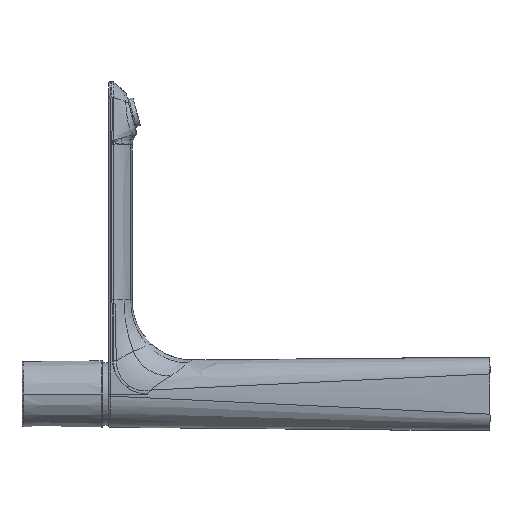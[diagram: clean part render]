
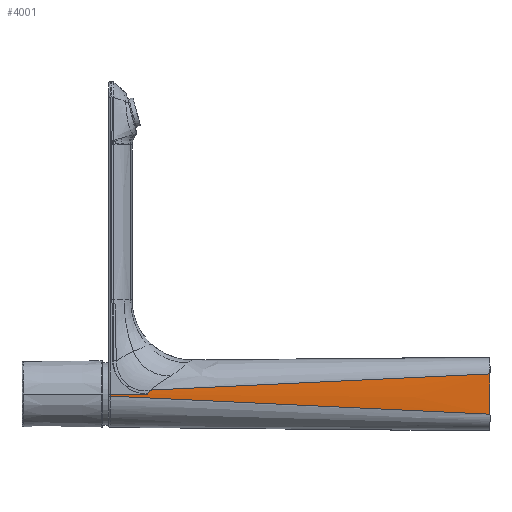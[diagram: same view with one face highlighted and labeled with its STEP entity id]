
A CAD part, left-side view. The second image highlights one B-rep face of the part: STEP entity #4001.
In plain terms, the highlighted free-form (B-spline) face has degree [5, 5] with [6, 8] control points.
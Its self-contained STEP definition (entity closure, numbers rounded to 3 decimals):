
#22=CARTESIAN_POINT('',(-23.102,0.,12.806));
#108=CARTESIAN_POINT('',(-23.102,0.,-12.806));
#126=CARTESIAN_POINT('',(-23.102,0.,12.806));
#127=CARTESIAN_POINT('',(-23.117,0.,12.574));
#128=CARTESIAN_POINT('',(-23.151,0.,
12.016));
#129=CARTESIAN_POINT('',(-23.213,0.,10.902));
#130=CARTESIAN_POINT('',(-23.281,0.,9.528));
#131=CARTESIAN_POINT('',(-23.372,0.,7.388));
#132=CARTESIAN_POINT('',(-23.469,0.,4.222));
#133=CARTESIAN_POINT('',(-23.515,0.,0.));
#134=CARTESIAN_POINT('',(-23.471,0.,-4.222));
#135=CARTESIAN_POINT('',(-23.373,0.,-7.388));
#136=CARTESIAN_POINT('',(-23.281,0.,-9.529));
#137=CARTESIAN_POINT('',(-23.212,0.,-10.902));
#138=CARTESIAN_POINT('',(-23.15,0.,-12.016));
#139=CARTESIAN_POINT('',(-23.117,0.,-12.574));
#140=CARTESIAN_POINT('',(-23.102,0.,-12.806));
#196=CARTESIAN_POINT('',(-21.38,216.391,2.53));
#226=CARTESIAN_POINT('',(-21.434,218.3,0.001));
#227=CARTESIAN_POINT('',(-21.434,218.314,0.001));
#228=CARTESIAN_POINT('',(-21.433,218.342,0.002));
#229=CARTESIAN_POINT('',(-21.433,218.37,0.002));
#230=CARTESIAN_POINT('',(-21.433,218.383,0.003));
#232=CARTESIAN_POINT('',(-21.433,218.383,0.003));
#278=CARTESIAN_POINT('',(-21.38,216.391,2.53));
#279=CARTESIAN_POINT('',(-21.388,216.575,2.336));
#280=CARTESIAN_POINT('',(-21.399,216.853,2.043));
#281=CARTESIAN_POINT('',(-21.412,217.216,1.648));
#282=CARTESIAN_POINT('',(-21.419,217.482,1.349));
#283=CARTESIAN_POINT('',(-21.425,217.741,1.046));
#284=CARTESIAN_POINT('',(-21.43,218.,0.736));
#285=CARTESIAN_POINT('',(-21.433,218.19,0.456));
#286=CARTESIAN_POINT('',(-21.434,218.283,0.203));
#287=CARTESIAN_POINT('',(-21.434,218.3,0.068));
#288=CARTESIAN_POINT('',(-21.434,218.3,0.001));
#290=DIRECTION('',(0.008,0.999,-0.047));
#291=VECTOR('',#290,216.642);
#292=CARTESIAN_POINT('',(-23.102,0.,12.806));
#293=LINE('',#292,#291);
#294=CARTESIAN_POINT('',(-21.209,242.009,0.));
#295=CARTESIAN_POINT('',(-21.209,242.009,
-0.155));
#296=CARTESIAN_POINT('',(-21.206,242.009,
-0.446));
#297=CARTESIAN_POINT('',(-21.197,242.01,
-0.844));
#298=CARTESIAN_POINT('',(-21.184,242.01,-1.157));
#299=CARTESIAN_POINT('',(-21.176,242.01,-1.314));
#338=DIRECTION('',(0.008,0.999,0.047));
#339=VECTOR('',#338,242.291);
#340=CARTESIAN_POINT('',(-23.102,0.,-12.806));
#341=LINE('',#340,#339);
#755=DIRECTION('',(0.009,1.,0.));
#756=VECTOR('',#755,23.627);
#757=CARTESIAN_POINT('',(-21.433,218.383,0.003));
#758=LINE('',#757,#756);
#3154=VERTEX_POINT('',#196);
#3179=VERTEX_POINT('',#22);
#3185=VERTEX_POINT('',#108);
#3287=VERTEX_POINT('',#294);
#3288=VERTEX_POINT('',#299);
#3307=VERTEX_POINT('',#288);
#3356=VERTEX_POINT('',#232);
#3940=CARTESIAN_POINT('',(-23.117,-2.42,
-12.996));
#3941=CARTESIAN_POINT('',(-23.152,-2.42,
-12.446));
#3942=CARTESIAN_POINT('',(-23.243,-2.42,
-10.886));
#3943=CARTESIAN_POINT('',(-23.519,-2.42,
-5.875));
#3944=CARTESIAN_POINT('',(-23.675,-2.42,
1.996));
#3945=CARTESIAN_POINT('',(-23.363,-2.42,
8.892));
#3946=CARTESIAN_POINT('',(-23.185,-2.42,
11.913));
#3947=CARTESIAN_POINT('',(-23.117,-2.42,
12.996));
#3948=CARTESIAN_POINT('',(-22.725,46.95,
-10.641));
#3949=CARTESIAN_POINT('',(-22.754,46.95,
-10.164));
#3950=CARTESIAN_POINT('',(-22.83,46.95,
-8.849));
#3951=CARTESIAN_POINT('',(-23.052,46.95,
-4.739));
#3952=CARTESIAN_POINT('',(-23.178,46.95,1.61));
#3953=CARTESIAN_POINT('',(-22.928,46.95,7.196));
#3954=CARTESIAN_POINT('',(-22.783,46.95,9.7));
#3955=CARTESIAN_POINT('',(-22.725,46.95,10.642));
#3956=CARTESIAN_POINT('',(-22.332,96.32,
-8.287));
#3957=CARTESIAN_POINT('',(-22.357,96.32,
-7.882));
#3958=CARTESIAN_POINT('',(-22.417,96.32,
-6.812));
#3959=CARTESIAN_POINT('',(-22.586,96.32,
-3.603));
#3960=CARTESIAN_POINT('',(-22.68,96.32,1.224));
#3961=CARTESIAN_POINT('',(-22.492,96.32,5.5));
#3962=CARTESIAN_POINT('',(-22.381,96.32,7.488));
#3963=CARTESIAN_POINT('',(-22.332,96.32,8.288));
#3964=CARTESIAN_POINT('',(-21.94,145.69,
-5.933));
#3965=CARTESIAN_POINT('',(-21.959,145.69,
-5.599));
#3966=CARTESIAN_POINT('',(-22.004,145.69,
-4.775));
#3967=CARTESIAN_POINT('',(-22.12,145.69,
-2.467));
#3968=CARTESIAN_POINT('',(-22.183,145.69,
0.838));
#3969=CARTESIAN_POINT('',(-22.057,145.69,3.804));
#3970=CARTESIAN_POINT('',(-21.979,145.69,5.275));
#3971=CARTESIAN_POINT('',(-21.94,145.69,5.933));
#3972=CARTESIAN_POINT('',(-21.547,195.06,
-3.578));
#3973=CARTESIAN_POINT('',(-21.562,195.06,
-3.317));
#3974=CARTESIAN_POINT('',(-21.592,195.06,
-2.738));
#3975=CARTESIAN_POINT('',(-21.654,195.06,
-1.331));
#3976=CARTESIAN_POINT('',(-21.685,195.06,
0.452));
#3977=CARTESIAN_POINT('',(-21.622,195.06,2.107));
#3978=CARTESIAN_POINT('',(-21.576,195.06,3.063));
#3979=CARTESIAN_POINT('',(-21.547,195.06,3.579));
#3980=CARTESIAN_POINT('',(-21.155,244.43,
-1.224));
#3981=CARTESIAN_POINT('',(-21.165,244.43,
-1.035));
#3982=CARTESIAN_POINT('',(-21.179,244.43,
-0.701));
#3983=CARTESIAN_POINT('',(-21.188,244.43,
-0.196));
#3984=CARTESIAN_POINT('',(-21.188,244.43,
0.066));
#3985=CARTESIAN_POINT('',(-21.186,244.43,
0.411));
#3986=CARTESIAN_POINT('',(-21.174,244.43,
0.85));
#3987=CARTESIAN_POINT('',(-21.155,244.43,1.224));
#3988=B_SPLINE_SURFACE_WITH_KNOTS('',5,5,((#3940,#3941,#3942,#3943,#3944,#3945,
#3946,#3947),(#3948,#3949,#3950,#3951,#3952,#3953,#3954,#3955),(#3956,#3957,
#3958,#3959,#3960,#3961,#3962,#3963),(#3964,#3965,#3966,#3967,#3968,#3969,#3970,
#3971),(#3972,#3973,#3974,#3975,#3976,#3977,#3978,#3979),(#3980,#3981,#3982,
#3983,#3984,#3985,#3986,#3987)),.UNSPECIFIED.,.F.,.F.,.F.,(6,6),(6,1,1,6),(
-0.01,1.006),(0.913,0.935,
0.957,1.001),.UNSPECIFIED.);
#3989=ORIENTED_EDGE('',*,*,#3935,.F.);
#3990=ORIENTED_EDGE('',*,*,#3436,.F.);
#3991=ORIENTED_EDGE('',*,*,#3467,.T.);
#3993=ORIENTED_EDGE('',*,*,#3992,.T.);
#3995=ORIENTED_EDGE('',*,*,#3994,.F.);
#3997=ORIENTED_EDGE('',*,*,#3996,.F.);
#3998=ORIENTED_EDGE('',*,*,#3928,.F.);
#3999=EDGE_LOOP('',(#3989,#3990,#3991,#3993,#3995,#3997,#3998));
#4000=FACE_OUTER_BOUND('',#3999,.F.);
#4001=ADVANCED_FACE('',(#4000),#3988,.F.);
#141=B_SPLINE_CURVE_WITH_KNOTS('',3,(#126,#127,#128,#129,#130,#131,#132,#133,
#134,#135,#136,#137,#138,#139,#140),.UNSPECIFIED.,.F.,.F.,(4,1,1,1,1,1,1,1,1,1,
1,1,4),(0.,0.063,0.125,0.188,
0.25,0.375,0.5,0.625,
0.75,0.812,0.875,0.937,1.),
.UNSPECIFIED.);
#231=B_SPLINE_CURVE_WITH_KNOTS('',3,(#226,#227,#228,#229,#230),.UNSPECIFIED.,
.F.,.F.,(4,1,4),(0.,0.5,1.),.UNSPECIFIED.);
#289=B_SPLINE_CURVE_WITH_KNOTS('',3,(#278,#279,#280,#281,#282,#283,#284,#285,
#286,#287,#288),.UNSPECIFIED.,.F.,.F.,(4,1,1,1,1,1,1,1,4),(0.,
0.25,0.375,0.5,0.625,
0.75,0.875,0.938,1.),.UNSPECIFIED.);
#300=B_SPLINE_CURVE_WITH_KNOTS('',3,(#294,#295,#296,#297,#298,#299),
.UNSPECIFIED.,.F.,.F.,(4,1,1,4),(0.,0.333,0.667,1.),
.UNSPECIFIED.);
#3436=EDGE_CURVE('',#3179,#3154,#293,.T.);
#3467=EDGE_CURVE('',#3179,#3185,#141,.T.);
#3928=EDGE_CURVE('',#3307,#3356,#231,.T.);
#3935=EDGE_CURVE('',#3154,#3307,#289,.T.);
#3992=EDGE_CURVE('',#3185,#3288,#341,.T.);
#3994=EDGE_CURVE('',#3287,#3288,#300,.T.);
#3996=EDGE_CURVE('',#3356,#3287,#758,.T.);
